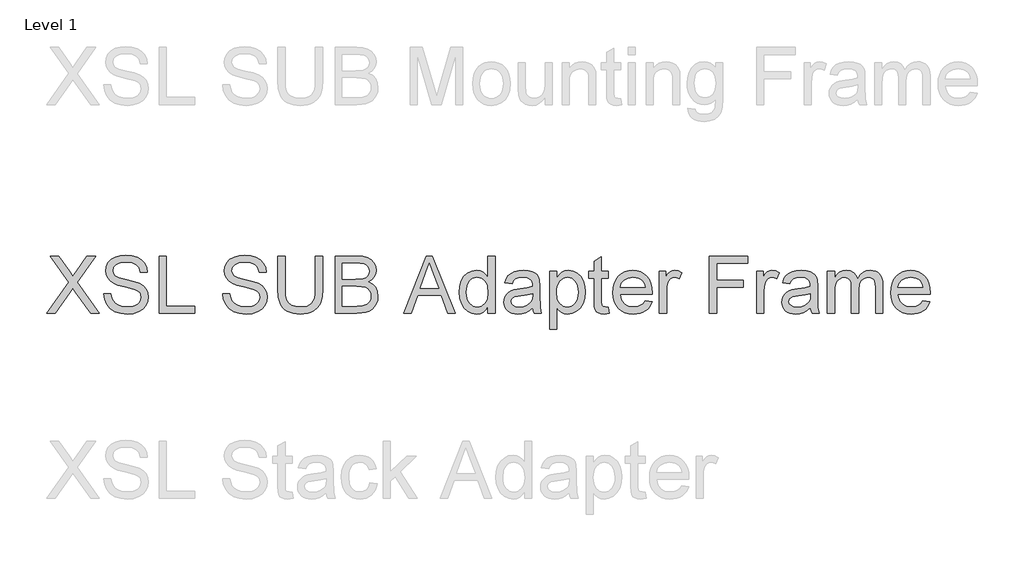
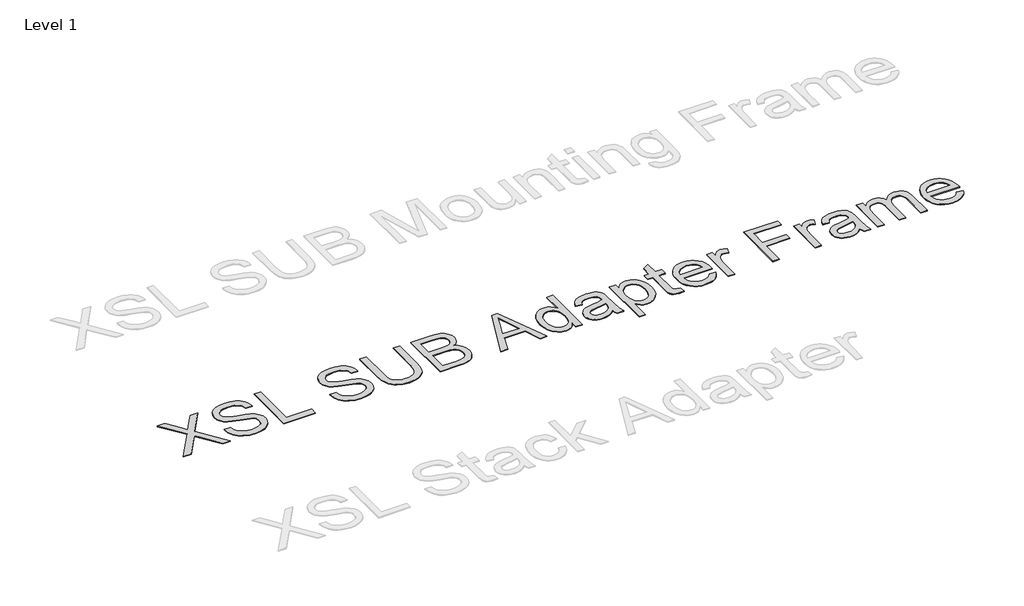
# One storey, part 6 of 52: 1 proxy.
"""IFC4 building model written with IfcOpenShell, lengths in millimetres."""

from ifc_helpers import new_model, si_unit, origin, origin_with_axes, place, context, project, spatial, polyline, outline, extrude, element, save

model = new_model("IFC4")

# Units and contexts
model_context = context("Model", 3, world=origin())
ifc_project = project(units=[si_unit("LENGTHUNIT", "METRE", prefix="MILLI")], contexts=[model_context])

# Site, building, storey
site = spatial("IfcSite", under=ifc_project)
building = spatial("IfcBuilding", under=site)
storey = spatial("IfcBuildingStorey", under=building, Name="Level 1", Elevation=0.0)

# Proxy
placement = place(None, origin())
element("IfcBuildingElementProxy", 1, Name="400mm Arial", ObjectType="400mm Arial", at=placement, inside=storey, context=model_context, shape_type="SweptSolid", body=[
    extrude(outline(polyline([(-18995.0211414, -67522.6117308), (-18840.2163979, -67303.6483673), (-18969.9070639, -67120.7864902), (-18909.7706204, -67120.7864902), (-18836.6847307, -67223.7934489), (-18812.0611625, -67263.9171118), (-18783.2192141, -67222.9105321), (-18710.9181393, -67120.7864902), (-18649.7025753, -67120.7864902), (-18779.4913432, -67304.3350804), (-18624.5884978, -67522.6117308), (-18684.8230431, -67522.6117308), (-18788.1243074, -67377.1266645), (-18809.6086159, -67347.0093918), (-18833.0549617, -67380.0697204), (-18933.8055774, -67522.6117308), (-18995.0211414, -67522.6117308)])), origin_with_axes(), (0.0, 0.0, 1.0), 5.0),
    extrude(outline(polyline([(-18593.1959008, -67384.4843044), (-18542.9677458, -67384.4843044), (-18537.2042612, -67412.3574969), (-18526.780938, -67434.7615104), (-18510.5205538, -67452.5424735), (-18487.2458862, -67466.5465148), (-18458.7963453, -67475.6332001), (-18427.0113409, -67478.6620952), (-18399.0277838, -67476.3689641), (-18374.5268429, -67469.4895707), (-18354.6734779, -67458.6002637), (-18340.6326484, -67444.2773913), (-18332.2817271, -67427.8330662), (-18329.4980867, -67410.5794006), (-18331.5827513, -67393.7671934), (-18337.8367453, -67379.2358546), (-18350.5409368, -67366.8382314), (-18371.9761944, -67356.4271709), (-18445.1111351, -67337.2482562), (-18493.1197354, -67324.5563274), (-18523.837882, -67312.4775352), (-18548.841595, -67295.5794889), (-18566.5612444, -67275.1007245), (-18577.1194577, -67251.4827004), (-18580.6388621, -67225.166875), (-18576.2855918, -67195.7485781), (-18563.225781, -67168.316844), (-18541.8027861, -67145.0667019), (-18512.3599638, -67128.1931811), (-18477.0187668, -67117.9292734), (-18437.9006479, -67114.5079709), (-18395.5206421, -67118.0886889), (-18358.438137, -67128.8308432), (-18327.9775078, -67146.5137044), (-18305.4631297, -67170.9165435), (-18291.2138337, -67200.5187813), (-18285.548451, -67233.7998392), (-18335.7766061, -67233.7998392), (-18344.9981814, -67203.8297193), (-18353.3613655, -67191.9716563), (-18364.226147, -67182.198258), (-18394.2698433, -67169.1016589), (-18435.9386106, -67164.7361259), (-18478.5883966, -67169.052608), (-18494.8917004, -67174.4482106), (-18507.847278, -67182.0020542), (-18524.7698497, -67201.0583416), (-18530.410707, -67223.695347), (-18526.413056, -67242.996889), (-18514.4201029, -67258.5215092), (-18486.0686638, -67272.4029232), (-18432.4069435, -67286.5786427), (-18377.0284405, -67300.0431238), (-18343.5266535, -67311.7908221), (-18314.8931715, -67330.0132436), (-18294.9171792, -67352.5030963), (-18283.1817435, -67379.0151254), (-18279.2699316, -67409.3040763), (-18283.7703547, -67440.2674776), (-18297.2716239, -67469.3914689), (-18319.2219163, -67494.4564955), (-18349.0694088, -67513.2430027), (-18384.9624288, -67524.9784383), (-18425.0493036, -67528.8902502), (-18474.2596518, -67524.67187), (-18514.7634595, -67512.0167294), (-18547.0267105, -67490.8757774), (-18571.5153886, -67461.1999631), (-18587.2362125, -67425.0494257), (-18593.1959008, -67384.4843044)])), origin_with_axes(), (0.0, 0.0, 1.0), 5.0),
    extrude(outline(polyline([(-18203.927699, -67522.6117308), (-18203.927699, -67120.7864902), (-18153.6995439, -67120.7864902), (-18153.6995439, -67472.3835758), (-17952.7869236, -67472.3835758), (-17952.7869236, -67522.6117308), (-18203.927699, -67522.6117308)])), origin_with_axes(), (0.0, 0.0, 1.0), 5.0),
    extrude(outline(polyline([(-17758.1528227, -67384.4843044), (-17707.9246677, -67384.4843044), (-17702.1611831, -67412.3574969), (-17691.7378599, -67434.7615104), (-17675.4774757, -67452.5424735), (-17652.2028081, -67466.5465148), (-17623.7532672, -67475.6332001), (-17591.9682628, -67478.6620952), (-17563.9847057, -67476.3689641), (-17539.4837648, -67469.4895707), (-17519.6303998, -67458.6002637), (-17505.5895703, -67444.2773913), (-17497.238649, -67427.8330662), (-17494.4550086, -67410.5794006), (-17496.5396732, -67393.7671934), (-17502.7936671, -67379.2358546), (-17515.4978587, -67366.8382314), (-17536.9331163, -67356.4271709), (-17610.0680569, -67337.2482562), (-17658.0766573, -67324.5563274), (-17688.7948039, -67312.4775352), (-17713.7985168, -67295.5794889), (-17731.5181663, -67275.1007245), (-17742.0763795, -67251.4827004), (-17745.595784, -67225.166875), (-17741.2425137, -67195.7485781), (-17728.1827029, -67168.316844), (-17706.759708, -67145.0667019), (-17677.3168857, -67128.1931811), (-17641.9756886, -67117.9292734), (-17602.8575698, -67114.5079709), (-17560.477564, -67118.0886889), (-17523.3950589, -67128.8308432), (-17492.9344297, -67146.5137044), (-17470.4200516, -67170.9165435), (-17456.1707556, -67200.5187813), (-17450.5053729, -67233.7998392), (-17500.733528, -67233.7998392), (-17509.9551033, -67203.8297193), (-17518.3182873, -67191.9716563), (-17529.1830689, -67182.198258), (-17559.2267652, -67169.1016589), (-17600.8955325, -67164.7361259), (-17643.5453185, -67169.052608), (-17659.8486222, -67174.4482106), (-17672.8041998, -67182.0020542), (-17689.7267716, -67201.0583416), (-17695.3676289, -67223.695347), (-17691.3699779, -67242.996889), (-17679.3770248, -67258.5215092), (-17651.0255857, -67272.4029232), (-17597.3638654, -67286.5786427), (-17541.9853624, -67300.0431238), (-17508.4835753, -67311.7908221), (-17479.8500934, -67330.0132436), (-17459.874101, -67352.5030963), (-17448.1386654, -67379.0151254), (-17444.2268535, -67409.3040763), (-17448.7272766, -67440.2674776), (-17462.2285458, -67469.3914689), (-17484.1788382, -67494.4564955), (-17514.0263307, -67513.2430027), (-17549.9193507, -67524.9784383), (-17590.0062255, -67528.8902502), (-17639.2165737, -67524.67187), (-17679.7203814, -67512.0167294), (-17711.9836323, -67490.8757774), (-17736.4723105, -67461.1999631), (-17752.1931344, -67425.0494257), (-17758.1528227, -67384.4843044)])), origin_with_axes(), (0.0, 0.0, 1.0), 5.0),
    extrude(outline(polyline([(-17105.1868068, -67120.7864902), (-17054.9586517, -67120.7864902), (-17054.9586517, -67352.6011981), (-17058.3676915, -67406.8883179), (-17068.594811, -67448.6919753), (-17076.7801854, -67465.6452039), (-17087.7001492, -67480.9429635), (-17117.7438455, -67506.5720759), (-17136.885972, -67516.3362771), (-17158.7994762, -67523.3107066), (-17210.9406176, -67528.8902502), (-17261.9413249, -67524.0342079), (-17302.7149127, -67509.4660809), (-17319.2696025, -67498.6656786), (-17333.2736438, -67485.6886413), (-17344.7270365, -67470.5349687), (-17353.6297808, -67453.2046611), (-17365.0709109, -67409.6351701), (-17368.8846209, -67352.6011981), (-17368.8846209, -67120.7864902), (-17318.6564658, -67120.7864902), (-17318.6564658, -67350.8353646), (-17316.1793937, -67395.9744854), (-17308.7481774, -67427.4038705), (-17295.2836964, -67449.1702219), (-17274.7068301, -67465.3202415), (-17247.8759699, -67475.3266317), (-17215.6495072, -67478.6620952), (-17187.966387, -67477.0127575), (-17164.5629608, -67472.0647447), (-17145.4392284, -67463.8180567), (-17130.5951899, -67452.2726934), (-17119.4790223, -67436.0368346), (-17111.5389025, -67413.7186603), (-17106.7748307, -67385.3181702), (-17105.1868068, -67350.8353646), (-17105.1868068, -67120.7864902)])), origin_with_axes(), (0.0, 0.0, 1.0), 5.0),
    extrude(outline(polyline([(-16967.0593803, -67522.6117308), (-16967.0593803, -67120.7864902), (-16813.7261647, -67120.7864902), (-16771.5546253, -67123.7418089), (-16738.6291868, -67132.607765), (-16713.3924819, -67147.6050877), (-16694.2871436, -67168.9545061), (-16682.2574024, -67194.0685837), (-16678.2474886, -67220.3598836), (-16681.6197402, -67244.5542562), (-16691.7364951, -67267.3016262), (-16708.6713296, -67287.2040421), (-16732.4978202, -67302.8635524), (-16704.0360165, -67317.725985), (-16683.0054291, -67340.338465), (-16670.0191947, -67369.2049389), (-16665.6904498, -67402.8293532), (-16668.6457685, -67430.8496985), (-16677.5117246, -67456.8344301), (-16690.7432137, -67478.9318753), (-16706.7951314, -67495.2903613), (-16726.4522927, -67507.1361616), (-16750.4995125, -67515.6955493), (-16779.7216056, -67520.8826855), (-16814.9033871, -67522.6117308), (-16967.0593803, -67522.6117308)]), holes=[polyline([(-16916.8312252, -67472.3835758), (-16813.8242666, -67472.3835758), (-16776.5455577, -67470.4215385), (-16745.005808, -67459.4831805), (-16733.4297879, -67450.0531387), (-16724.1101107, -67437.1650061), (-16717.9664814, -67421.3951312), (-16715.9186049, -67403.3198625), (-16718.3221006, -67382.3260634), (-16725.5325877, -67364.2753201), (-16738.1264147, -67350.1609142), (-16756.67993, -67340.9761271), (-16782.9589672, -67335.9361438), (-16818.7293598, -67334.2561493), (-16916.8312252, -67334.2561493), (-16916.8312252, -67472.3835758)]), polyline([(-16916.8312252, -67284.0279942), (-16825.1059811, -67284.0279942), (-16771.5423626, -67279.7115122), (-16752.7926436, -67272.2680331), (-16739.3158998, -67261.1212087), (-16731.1857077, -67246.4427171), (-16728.4756437, -67228.4042366), (-16731.0017667, -67210.8930536), (-16738.5801358, -67195.6382135), (-16750.8673945, -67183.7310996), (-16767.5201861, -67176.2630951), (-16793.075722, -67172.3267578), (-16832.0712135, -67171.0146453), (-16916.8312252, -67171.0146453), (-16916.8312252, -67284.0279942)])]), origin_with_axes(), (0.0, 0.0, 1.0), 5.0),
    extrude(outline(polyline([(-16486.3602399, -67522.6117308), (-16325.96369, -67120.7864902), (-16283.1912767, -67120.7864902), (-16122.8928287, -67522.6117308), (-16175.9659379, -67522.6117308), (-16221.8776109, -67397.0413432), (-16387.4735596, -67397.0413432), (-16433.3852326, -67522.6117308), (-16486.3602399, -67522.6117308)]), holes=[polyline([(-16369.0304089, -67346.8131881), (-16240.2226597, -67346.8131881), (-16276.5203499, -67248.0246096), (-16304.6755852, -67171.0146453), (-16329.6915609, -67239.3916455), (-16369.0304089, -67346.8131881)])]), origin_with_axes(), (0.0, 0.0, 1.0), 5.0),
    extrude(outline(polyline([(-15893.4325656, -67522.6117308), (-15893.4325656, -67475.2285299), (-15908.4605451, -67498.7055325), (-15926.6645725, -67515.4748201), (-15948.0446478, -67525.5363927), (-15972.6007709, -67528.8902502), (-16005.0724884, -67524.0342079), (-16034.7973536, -67509.4660809), (-16059.9604821, -67486.2036761), (-16078.7469893, -67455.2648003), (-16090.4456367, -67417.9002523), (-16094.3451859, -67375.3608309), (-16090.7522051, -67333.3487071), (-16079.9732626, -67295.4078106), (-16062.0206212, -67263.6963826), (-16036.9065437, -67240.3726641), (-16006.5317536, -67226.0252663), (-15972.7969747, -67221.2428004), (-15948.2224574, -67224.664103), (-15926.4928942, -67234.9280106), (-15908.074269, -67250.6610973), (-15893.4325656, -67270.4899368), (-15893.4325656, -67120.7864902), (-15843.2044105, -67120.7864902), (-15843.2044105, -67522.6117308), (-15893.4325656, -67522.6117308)]), holes=[polyline([(-16044.1170308, -67375.1646272), (-16042.7006851, -67399.5214809), (-16038.4516481, -67420.5980536), (-16031.3699197, -67438.3943451), (-16021.4554999, -67452.9103555), (-15996.7583553, -67472.2241602), (-15982.8830727, -67477.0526114), (-15967.9899833, -67478.6620952), (-15953.0263831, -67477.1261878), (-15939.233874, -67472.5184658), (-15915.1621288, -67454.0875779), (-15905.6554449, -67440.1785728), (-15898.8649564, -67423.0260748), (-15893.4325656, -67378.9905999), (-15898.9630582, -67330.8471095), (-15905.8761741, -67312.3119883), (-15915.5545362, -67297.4679498), (-15927.2562493, -67286.0942648), (-15940.2394181, -67277.9702041), (-15954.5040425, -67273.0957676), (-15970.0501224, -67271.4709555), (-15985.2375175, -67273.0313883), (-15999.1128001, -67277.7126867), (-16011.6759702, -67285.5148506), (-16022.9270279, -67296.4378802), (-16032.1976542, -67310.7208987), (-16038.8195301, -67328.6030293), (-16044.1170308, -67375.1646272)])]), origin_with_axes(), (0.0, 0.0, 1.0), 5.0),
    extrude(outline(polyline([(-15579.5065964, -67484.9406145), (-15603.5047652, -67505.5174808), (-15628.2141725, -67518.9819618), (-15654.1989041, -67526.4131781), (-15682.0230457, -67528.8902502), (-15704.3872053, -67527.4003281), (-15723.9983813, -67522.9305619), (-15740.8565738, -67515.4809515), (-15754.9617826, -67505.0514969), (-15766.09941, -67492.3043858), (-15774.0548581, -67477.9018057), (-15778.828127, -67461.8437566), (-15780.4192167, -67444.1302385), (-15778.015721, -67423.3081176), (-15770.8052338, -67404.3989831), (-15759.6829349, -67388.2121753), (-15745.5440035, -67375.5570346), (-15728.9280001, -67365.9921028), (-15710.3744848, -67359.0759213), (-15666.9153584, -67351.5220776), (-15615.5590319, -67343.5758265), (-15579.800902, -67334.2561493), (-15579.5065964, -67323.0725367), (-15582.9646871, -67300.6562604), (-15593.3389594, -67285.9900315), (-15616.5400505, -67275.1007245), (-15648.8646152, -67271.4709555), (-15678.7856841, -67273.8867139), (-15699.6813814, -67281.1339892), (-15713.9306774, -67294.5371566), (-15723.9125422, -67315.4205912), (-15774.1406973, -67309.1420718), (-15765.421894, -67281.6735495), (-15752.4111341, -67260.0911391), (-15733.894407, -67243.5855002), (-15708.6577021, -67231.3472925), (-15677.7924027, -67223.7689234), (-15642.3898921, -67221.2428004), (-15608.4343839, -67223.4746178), (-15581.5176846, -67230.1700701), (-15561.2228612, -67240.2377741), (-15547.1329808, -67252.5863464), (-15537.7887781, -67267.8534492), (-15531.7309879, -67286.6767446), (-15529.2784413, -67330.6263803), (-15529.2784413, -67393.1172685), (-15526.7277928, -67480.3788778), (-15516.7214025, -67522.6117308), (-15566.9495576, -67522.6117308), (-15574.9939105, -67505.1495988), (-15579.5065964, -67484.9406145)]), holes=[polyline([(-15579.5065964, -67384.4843044), (-15613.253638, -67392.8474884), (-15660.5387372, -67399.8862973), (-15703.7526089, -67408.0287521), (-15714.9975352, -67413.5960329), (-15723.323931, -67421.2725039), (-15728.4742789, -67430.4695538), (-15730.1910616, -67440.5985714), (-15726.450928, -67455.5345804), (-15715.2305271, -67467.7727881), (-15696.7751137, -67475.9397684), (-15671.3299424, -67478.6620952), (-15644.3519294, -67475.6577255), (-15620.5131761, -67466.6446166), (-15601.1871086, -67453.3640766), (-15587.747153, -67437.5574136), (-15581.7874647, -67421.2725039), (-15579.800902, -67398.7090749), (-15579.5065964, -67384.4843044)])]), origin_with_axes(), (0.0, 0.0, 1.0), 5.0),
    extrude(outline(polyline([(-15460.2147281, -67635.6250798), (-15460.2147281, -67227.5213198), (-15409.986573, -67227.5213198), (-15409.986573, -67276.7684562), (-15393.6035615, -67252.4759818), (-15375.2585126, -67235.1242143), (-15353.872306, -67224.7131539), (-15328.365821, -67221.2428004), (-15294.3980501, -67226.0988427), (-15264.6977104, -67240.6669697), (-15240.5156005, -67264.0642646), (-15223.1025194, -67295.4078106), (-15212.5810944, -67332.4167393), (-15209.0739527, -67372.8101824), (-15213.0348155, -67415.7665367), (-15224.9174039, -67454.1856797), (-15244.3415733, -67486.1178369), (-15270.9271788, -67509.6132337), (-15301.8905801, -67524.0709961), (-15334.4481366, -67528.8902502), (-15357.5388632, -67525.6651514), (-15378.1525177, -67515.9898549), (-15395.7985907, -67501.3849397), (-15409.986573, -67483.3709847), (-15409.986573, -67635.6250798), (-15460.2147281, -67635.6250798)]), holes=[polyline([(-15409.986573, -67377.4209701), (-15404.5541822, -67422.4497263), (-15397.7636937, -67439.8873329), (-15388.2570098, -67453.9404251), (-15364.20979, -67472.4816776), (-15350.4479377, -67477.1169908), (-15335.5272572, -67478.6620952), (-15320.3919787, -67477.0618085), (-15306.3787404, -67472.2609484), (-15293.4875422, -67464.259515), (-15281.718384, -67453.0575083), (-15271.9112631, -67438.4955126), (-15264.9061768, -67420.4141126), (-15260.703125, -67398.8133081), (-15259.3021078, -67373.6930992), (-15264.7712867, -67328.9095977), (-15271.6077605, -67311.337101), (-15281.1788237, -67296.9774405), (-15305.1892553, -67277.8475767), (-15318.7947577, -67273.0651108), (-15333.467118, -67271.4709555), (-15348.093493, -67273.1662783), (-15361.8553453, -67278.2522469), (-15386.7854818, -67298.5961212), (-15396.9359592, -67313.6946115), (-15404.1863002, -67331.8649163), (-15408.5365048, -67353.1070359), (-15409.986573, -67377.4209701)])]), origin_with_axes(), (0.0, 0.0, 1.0), 5.0),
    extrude(outline(polyline([(-15045.8324487, -67480.7222343), (-15039.5539293, -67524.0832588), (-15077.1269437, -67528.8902502), (-15101.2354772, -67526.8055856), (-15119.212644, -67520.5515917), (-15131.9168356, -67510.9130834), (-15140.2064432, -67498.6748757), (-15144.7681799, -67477.656551), (-15146.2887588, -67441.6776919), (-15146.2887588, -67277.7494749), (-15183.9598751, -67277.7494749), (-15183.9598751, -67227.5213198), (-15146.2887588, -67227.5213198), (-15146.2887588, -67155.8088562), (-15096.0606038, -67126.2801947), (-15096.0606038, -67227.5213198), (-15045.8324487, -67227.5213198), (-15045.8324487, -67277.7494749), (-15096.0606038, -67277.7494749), (-15096.0606038, -67440.2061639), (-15093.4118534, -67466.1050564), (-15084.8279402, -67475.2775808), (-15067.7091647, -67478.6620952), (-15045.8324487, -67480.7222343)])), origin_with_axes(), (0.0, 0.0, 1.0), 5.0),
    extrude(outline(polyline([(-14789.0017651, -67434.7124595), (-14739.7546287, -67440.9909788), (-14747.3054067, -67460.7155852), (-14757.4988036, -67478.0980094), (-14770.3348195, -67493.1382517), (-14785.8134545, -67505.8363119), (-14803.7752929, -67515.9224099), (-14824.0609193, -67523.1267656), (-14871.6035358, -67528.8902502), (-14902.7692721, -67526.4039811), (-14930.5382314, -67518.9451736), (-14954.9104136, -67506.5138279), (-14975.8858187, -67489.1099438), (-14992.7532081, -67467.2178994), (-15004.8013435, -67441.3220726), (-15012.0302247, -67411.4224635), (-15014.4398518, -67377.5190719), (-15012.0056992, -67342.4660492), (-15004.7032416, -67311.5700929), (-14992.532479, -67284.8312033), (-14975.4934112, -67262.2493801), (-14954.5731884, -67244.3090015), (-14930.7589606, -67231.4944453), (-14904.0507277, -67223.8057116), (-14874.4484899, -67221.2428004), (-14845.7996795, -67223.7995803), (-14819.89159, -67231.4699199), (-14796.7242213, -67244.2538192), (-14776.2975736, -67262.1512783), (-14759.6233221, -67284.6840505), (-14747.7131425, -67311.3738892), (-14740.5670348, -67342.2207945), (-14738.1849989, -67377.2247664), (-14738.4793044, -67390.7628238), (-14964.2116967, -67390.7628238), (-14961.3023632, -67410.8062611), (-14955.5174189, -67428.3603637), (-14946.8568636, -67443.4251314), (-14935.3206973, -67456.0005643), (-14921.5465823, -67465.914984), (-14906.1721806, -67472.9967124), (-14870.6225171, -67478.6620952), (-14843.8897588, -67476.0378703), (-14821.3753807, -67468.1651956), (-14803.0793828, -67454.5535617), (-14789.0017651, -67434.7124595)]), holes=[polyline([(-14964.2116967, -67340.5346687), (-14788.4131539, -67340.5346687), (-14795.2067081, -67313.9981141), (-14808.5240363, -67295.0154032), (-14822.2215093, -67284.7147073), (-14837.8074431, -67277.3570674), (-14855.2818379, -67272.9424835), (-14874.6446936, -67271.4709555), (-14908.5020999, -67276.1675823), (-14936.4979197, -67290.2574627), (-14955.9588773, -67312.2200178), (-14964.2116967, -67340.5346687)])]), origin_with_axes(), (0.0, 0.0, 1.0), 5.0),
    extrude(outline(polyline([(-14687.9568438, -67522.6117308), (-14687.9568438, -67227.5213198), (-14644.0072081, -67227.5213198), (-14644.0072081, -67271.1766499), (-14627.7713494, -67245.8663686), (-14612.8108149, -67230.9548851), (-14597.8012295, -67223.6708216), (-14581.418218, -67221.2428004), (-14556.4022423, -67225.1178241), (-14530.9938592, -67236.7428951), (-14547.7692782, -67281.7716513), (-14565.4276139, -67274.0461294), (-14583.0859497, -67271.4709555), (-14598.0832724, -67273.9480276), (-14611.4864397, -67281.3792439), (-14622.3144331, -67293.2005187), (-14629.5862339, -67308.8477662), (-14635.693075, -67336.9048997), (-14637.7286887, -67367.5126817), (-14637.7286887, -67522.6117308), (-14687.9568438, -67522.6117308)])), origin_with_axes(), (0.0, 0.0, 1.0), 5.0),
    extrude(outline(polyline([(-14336.3597583, -67522.6117308), (-14336.3597583, -67120.7864902), (-14066.3834247, -67120.7864902), (-14066.3834247, -67171.0146453), (-14286.1316032, -67171.0146453), (-14286.1316032, -67290.3065136), (-14097.7760217, -67290.3065136), (-14097.7760217, -67340.5346687), (-14286.1316032, -67340.5346687), (-14286.1316032, -67522.6117308), (-14336.3597583, -67522.6117308)])), origin_with_axes(), (0.0, 0.0, 1.0), 5.0),
    extrude(outline(polyline([(-14003.5982309, -67522.6117308), (-14003.5982309, -67227.5213198), (-13959.6485952, -67227.5213198), (-13959.6485952, -67271.1766499), (-13943.4127365, -67245.8663686), (-13928.452202, -67230.9548851), (-13913.4426166, -67223.6708216), (-13897.0596051, -67221.2428004), (-13872.0436294, -67225.1178241), (-13846.6352463, -67236.7428951), (-13863.4106653, -67281.7716513), (-13881.069001, -67274.0461294), (-13898.7273368, -67271.4709555), (-13913.7246595, -67273.9480276), (-13927.1278268, -67281.3792439), (-13937.9558202, -67293.2005187), (-13945.227621, -67308.8477662), (-13951.3344621, -67336.9048997), (-13953.3700758, -67367.5126817), (-13953.3700758, -67522.6117308), (-14003.5982309, -67522.6117308)])), origin_with_axes(), (0.0, 0.0, 1.0), 5.0),
    extrude(outline(polyline([(-13626.8870678, -67484.9406145), (-13650.8852366, -67505.5174808), (-13675.594644, -67518.9819618), (-13701.5793756, -67526.4131781), (-13729.4035171, -67528.8902502), (-13751.7676768, -67527.4003281), (-13771.3788528, -67522.9305619), (-13788.2370452, -67515.4809515), (-13802.3422541, -67505.0514969), (-13813.4798815, -67492.3043858), (-13821.4353296, -67477.9018057), (-13826.2085985, -67461.8437566), (-13827.7996881, -67444.1302385), (-13825.3961924, -67423.3081176), (-13818.1857053, -67404.3989831), (-13807.0634063, -67388.2121753), (-13792.924475, -67375.5570346), (-13776.3084715, -67365.9921028), (-13757.7549562, -67359.0759213), (-13714.2958299, -67351.5220776), (-13662.9395034, -67343.5758265), (-13627.1813734, -67334.2561493), (-13626.8870678, -67323.0725367), (-13630.3451586, -67300.6562604), (-13640.7194308, -67285.9900315), (-13663.920522, -67275.1007245), (-13696.2450866, -67271.4709555), (-13726.1661556, -67273.8867139), (-13747.0618529, -67281.1339892), (-13761.3111489, -67294.5371566), (-13771.2930137, -67315.4205912), (-13821.5211687, -67309.1420718), (-13812.8023655, -67281.6735495), (-13799.7916056, -67260.0911391), (-13781.2748785, -67243.5855002), (-13756.0381736, -67231.3472925), (-13725.1728742, -67223.7689234), (-13689.7703635, -67221.2428004), (-13655.8148554, -67223.4746178), (-13628.8981561, -67230.1700701), (-13608.6033327, -67240.2377741), (-13594.5134522, -67252.5863464), (-13585.1692496, -67267.8534492), (-13579.1114594, -67286.6767446), (-13576.6589127, -67330.6263803), (-13576.6589127, -67393.1172685), (-13574.1082642, -67480.3788778), (-13564.101874, -67522.6117308), (-13614.3300291, -67522.6117308), (-13622.374382, -67505.1495988), (-13626.8870678, -67484.9406145)]), holes=[polyline([(-13626.8870678, -67384.4843044), (-13660.6341095, -67392.8474884), (-13707.9192086, -67399.8862973), (-13751.1330803, -67408.0287521), (-13762.3780066, -67413.5960329), (-13770.7044025, -67421.2725039), (-13775.8547504, -67430.4695538), (-13777.571533, -67440.5985714), (-13773.8313994, -67455.5345804), (-13762.6109986, -67467.7727881), (-13744.1555852, -67475.9397684), (-13718.7104138, -67478.6620952), (-13691.7324008, -67475.6577255), (-13667.8936476, -67466.6446166), (-13648.5675801, -67453.3640766), (-13635.1276245, -67437.5574136), (-13629.1679362, -67421.2725039), (-13627.1813734, -67398.7090749), (-13626.8870678, -67384.4843044)])]), origin_with_axes(), (0.0, 0.0, 1.0), 5.0),
    extrude(outline(polyline([(-13507.5951995, -67522.6117308), (-13507.5951995, -67227.5213198), (-13457.3670444, -67227.5213198), (-13457.3670444, -67276.0817431), (-13442.2593572, -67253.7758315), (-13422.8351878, -67236.3014367), (-13399.756724, -67225.0074595), (-13373.6861533, -67221.2428004), (-13345.7516471, -67225.0810359), (-13323.3598963, -67236.5957423), (-13306.6335283, -67255.0266303), (-13295.6951703, -67279.6134103), (-13277.3869097, -67254.0762685), (-13256.5034751, -67235.8354529), (-13233.0448665, -67224.8909635), (-13207.011084, -67221.2428004), (-13186.9032673, -67222.7603136), (-13169.2541286, -67227.3128533), (-13154.0636678, -67234.9004195), (-13141.3318851, -67245.5230121), (-13131.2672469, -67259.3032585), (-13124.0782195, -67276.363786), (-13119.7648032, -67296.7045947), (-13118.3269977, -67320.3256844), (-13118.3269977, -67522.6117308), (-13168.5551528, -67522.6117308), (-13168.5551528, -67341.9080948), (-13169.7201124, -67316.8553309), (-13173.2149914, -67299.9695474), (-13179.7632909, -67288.40579), (-13190.0885122, -67279.3191047), (-13203.3690522, -67273.4329928), (-13218.7833078, -67271.4709555), (-13245.9943128, -67276.4986761), (-13268.1775971, -67291.5818379), (-13276.7829701, -67303.1517266), (-13282.9296651, -67317.7505105), (-13287.8470211, -67356.0347634), (-13287.8470211, -67522.6117308), (-13338.0751761, -67522.6117308), (-13338.0751761, -67336.3162885), (-13340.9814439, -67307.9157985), (-13349.7002472, -67287.6577633), (-13365.0409264, -67275.5176574), (-13387.8128219, -67271.4709555), (-13407.1634148, -67274.1687568), (-13424.9934289, -67282.2621607), (-13439.7087087, -67295.5549634), (-13449.7150989, -67313.8509613), (-13455.4540581, -67339.234819), (-13457.3670444, -67373.7912011), (-13457.3670444, -67522.6117308), (-13507.5951995, -67522.6117308)])), origin_with_axes(), (0.0, 0.0, 1.0), 5.0),
    extrude(outline(polyline([(-12836.3822366, -67434.7124595), (-12787.1351002, -67440.9909788), (-12794.6858781, -67460.7155852), (-12804.8792751, -67478.0980094), (-12817.715291, -67493.1382517), (-12833.193926, -67505.8363119), (-12851.1557644, -67515.9224099), (-12871.4413907, -67523.1267656), (-12918.9840072, -67528.8902502), (-12950.1497436, -67526.4039811), (-12977.9187029, -67518.9451736), (-13002.290885, -67506.5138279), (-13023.2662901, -67489.1099438), (-13040.1336796, -67467.2178994), (-13052.181815, -67441.3220726), (-13059.4106962, -67411.4224635), (-13061.8203232, -67377.5190719), (-13059.3861707, -67342.4660492), (-13052.0837131, -67311.5700929), (-13039.9129504, -67284.8312033), (-13022.8738827, -67262.2493801), (-13001.9536599, -67244.3090015), (-12978.1394321, -67231.4944453), (-12951.4311992, -67223.8057116), (-12921.8289613, -67221.2428004), (-12893.180151, -67223.7995803), (-12867.2720614, -67231.4699199), (-12844.1046928, -67244.2538192), (-12823.678045, -67262.1512783), (-12807.0037936, -67284.6840505), (-12795.093614, -67311.3738892), (-12787.9475062, -67342.2207945), (-12785.5654703, -67377.2247664), (-12785.8597759, -67390.7628238), (-13011.5921682, -67390.7628238), (-13008.6828347, -67410.8062611), (-13002.8978903, -67428.3603637), (-12994.237335, -67443.4251314), (-12982.7011688, -67456.0005643), (-12968.9270538, -67465.914984), (-12953.5526521, -67472.9967124), (-12918.0029886, -67478.6620952), (-12891.2702303, -67476.0378703), (-12868.7558522, -67468.1651956), (-12850.4598543, -67454.5535617), (-12836.3822366, -67434.7124595)]), holes=[polyline([(-13011.5921682, -67340.5346687), (-12835.7936254, -67340.5346687), (-12842.5871796, -67313.9981141), (-12855.9045078, -67295.0154032), (-12869.6019808, -67284.7147073), (-12885.1879146, -67277.3570674), (-12902.6623094, -67272.9424835), (-12922.0251651, -67271.4709555), (-12955.8825714, -67276.1675823), (-12983.8783912, -67290.2574627), (-13003.3393487, -67312.2200178), (-13011.5921682, -67340.5346687)])]), origin_with_axes(), (0.0, 0.0, 1.0), 5.0),
])

save(model, "model.ifc")
